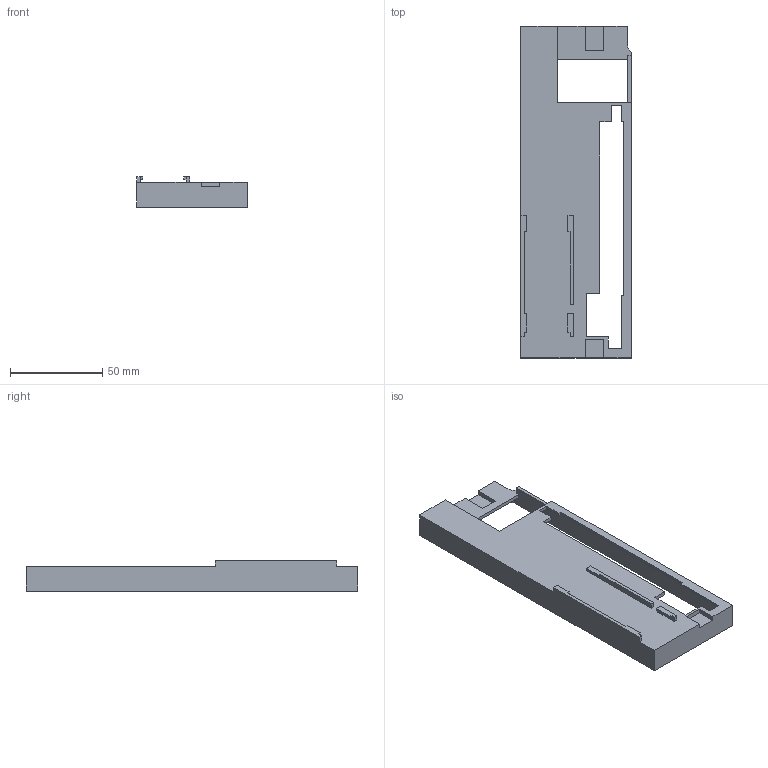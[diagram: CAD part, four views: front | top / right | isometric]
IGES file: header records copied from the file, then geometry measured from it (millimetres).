
Start section:  PTC IGES file: j3bs-frontpanel.igs
Global section: file name: j3bs-frontpanel.igs; native system: Pro/ENGINEER by Parametric Technology Corporation; preprocessor: 2006420; author: JE18792; organization: Unknown; date: 20101129.152225; units: millimetre
Bounding box: 60 x 180 x 16.5 mm (x, y, z)
Volume: 27211 mm3; surface area: 29422.9 mm2
Topology: 1 solids, 1 shells, 86 faces, 252 edges, 168 vertices
Faces by surface type: bspline 86
